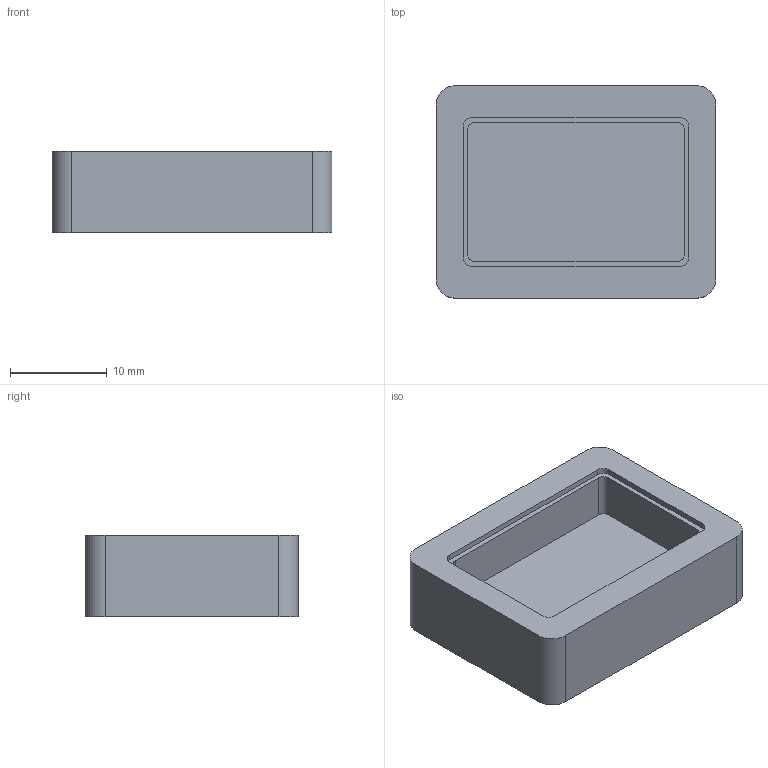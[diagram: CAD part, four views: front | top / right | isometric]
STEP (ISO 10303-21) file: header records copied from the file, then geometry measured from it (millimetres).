
FILE_DESCRIPTION(('Open CASCADE Model'),'2;1');
FILE_NAME('Open CASCADE Shape Model','2026-09-28T19:49:22',('Author'),( 'Open CASCADE'),'Open CASCADE STEP processor 7.8','Open CASCADE 7.8' ,'Unknown');
FILE_SCHEMA(('AUTOMOTIVE_DESIGN { 1 0 10303 214 1 1 1 1 }'));
Length unit declared in the file: millimetre
Products named in the file (1): Open CASCADE STEP translator 7.8 4
Bounding box: 29 x 22 x 8.4 mm (x, y, z)
Volume: 3600.5 mm3; surface area: 2483 mm2
Topology: 1 solids, 1 shells, 28 faces, 72 edges, 48 vertices
Faces by surface type: plane 16, cylinder 12
Entity records: 1802 total; most frequent: CARTESIAN_POINT 333, DIRECTION 278, LINE 152, VECTOR 152, ORIENTED_EDGE 144, PCURVE 144, DEFINITIONAL_REPRESENTATION 144, EDGE_CURVE 72
